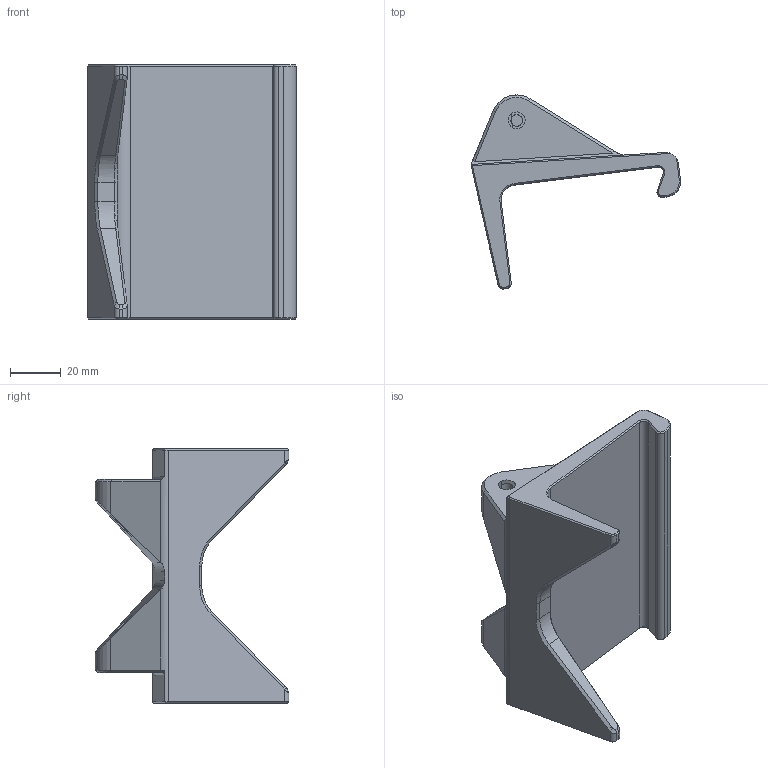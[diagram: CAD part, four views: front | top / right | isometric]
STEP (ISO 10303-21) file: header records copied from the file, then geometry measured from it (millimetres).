
FILE_DESCRIPTION(/* description */ (''),/* implementation_level */ '2;1');
FILE_NAME(/* name */ 'C:/Users/Brien.ALLISON/3D Objects/3D Objects/3D Print Files/My models/Miscellaneous/Monitor Camera mount/CMM Base.step',/* time_stamp */ '2019-05-02T16:11:25+01:00',/* author */ ('brienallison'),/* organization */ (''),/* preprocessor_version */ 'ST-DEVELOPER v18',/* originating_system */ 'Autodesk Translation Framework v8.2.0.1029',/* authorisation */ '');
FILE_SCHEMA (('AUTOMOTIVE_DESIGN { 1 0 10303 214 3 1 1 }'));
Length unit declared in the file: millimetre
Products named in the file (1): Camera mount
Bounding box: 82.16 x 76.14 x 100 mm (x, y, z)
Volume: 127227.5 mm3; surface area: 29308 mm2
Topology: 1 solids, 1 shells, 131 faces, 331 edges, 203 vertices
Faces by surface type: plane 74, cone 21, cylinder 20, bspline 16
Full cylindrical faces by diameter (mm): 4.6 x2
Entity records: 4181 total; most frequent: CARTESIAN_POINT 1096, ORIENTED_EDGE 662, DIRECTION 590, EDGE_CURVE 331, LINE 218, VECTOR 218, VERTEX_POINT 203, AXIS2_PLACEMENT_3D 186
